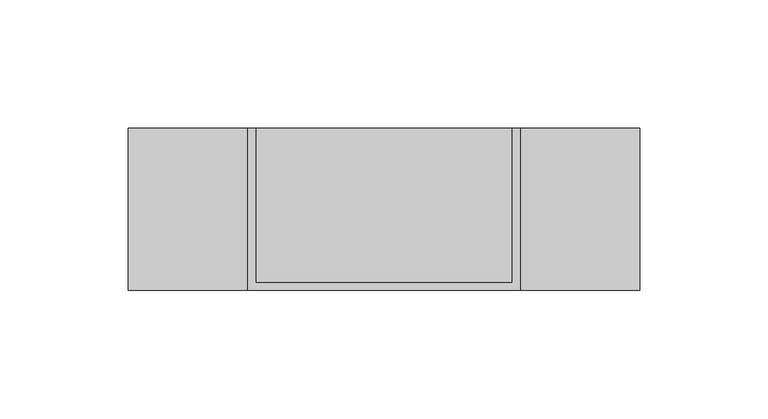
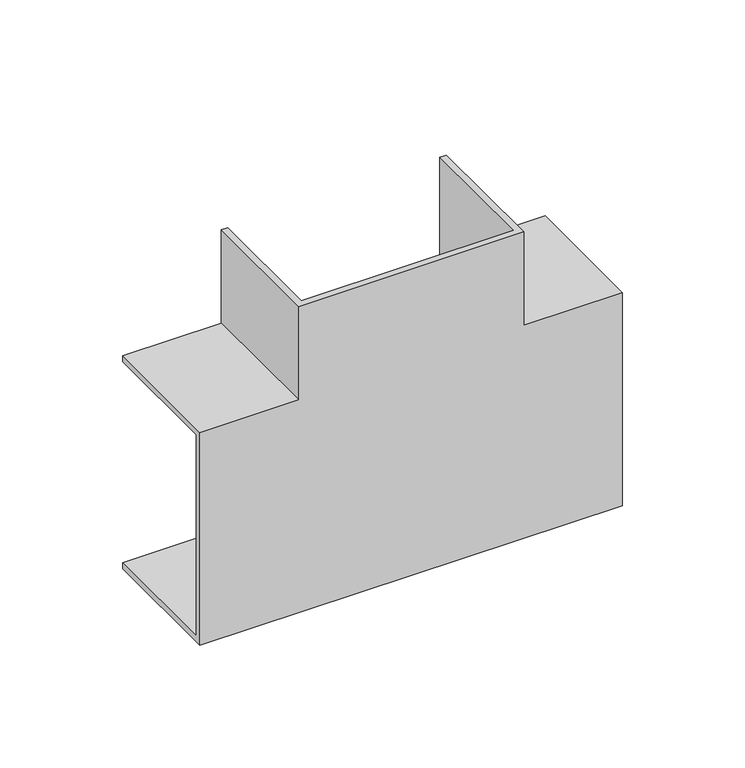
"""IFC4 building model written with IfcOpenShell, lengths in millimetres: proxy geometry, Угол_Т-образный КМТ : Угол Т-образный КМТ 100х60."""

from ifc_helpers import new_model, si_unit, origin, place, context, project, spatial, faceted_brep, source, transform, mapped, element, save


def generic_models_825cb300(model_context):
    return source(origin(), model_context, "Body", "Brep", [
        faceted_brep([(-53.0, -63.0, 53.0), (-99.5, -63.0, 53.0), (-99.5, -63.0, -53.0), (99.5, -63.0, -53.0), (99.5, -63.0, 53.0), (53.0, -63.0, 53.0), (53.0, -63.0, 99.5), (-53.0, -63.0, 99.5), (-53.0, 0.0, 53.0), (-53.0, 0.0, 99.5), (-50.0, 0.0, 99.5), (-50.0, 0.0, 50.0), (-99.5, 0.0, 50.0), (-99.5, 0.0, 53.0), (53.0, 0.0, 99.5), (53.0, 0.0, 53.0), (99.5, 0.0, 53.0), (99.5, 0.0, 50.0), (50.0, 0.0, 50.0), (50.0, 0.0, 99.5), (99.5, 0.0, -53.0), (-99.5, 0.0, -53.0), (-99.5, 0.0, -50.0), (-50.0, 0.0, -50.0), (50.0, 0.0, -50.0), (99.5, 0.0, -50.0), (-99.5, -60.0, 50.0), (-99.5, -60.0, -50.0), (99.5, -60.0, -50.0), (99.5, -60.0, 50.0), (50.0, -60.0, 99.5), (-50.0, -60.0, 99.5), (-50.0, -60.0, 50.0), (50.0, -60.0, 50.0)], [[[0, 1, 2, 3, 4, 5, 6, 7]], [[8, 9, 10, 11, 12, 13]], [[14, 15, 16, 17, 18, 19]], [[20, 21, 22, 23, 24, 25]], [[1, 0, 8, 13]], [[2, 1, 13, 12, 26, 27, 22, 21]], [[3, 2, 21, 20]], [[4, 3, 20, 25, 28, 29, 17, 16]], [[5, 4, 16, 15]], [[6, 5, 15, 14]], [[7, 6, 14, 19, 30, 31, 10, 9]], [[0, 7, 9, 8]], [[27, 26, 32, 31, 30, 33, 29, 28]], [[22, 27, 28, 25, 24, 23]], [[26, 12, 11, 32]], [[17, 29, 33, 18]], [[33, 30, 19, 18]], [[31, 32, 11, 10]]]),
    ])


if __name__ == "__main__":
    model = new_model("IFC4")
    model_context = context("Model", 3, world=origin())
    ifc_project = project(units=[si_unit("LENGTHUNIT", "METRE", prefix="MILLI")], contexts=[model_context])
    site = spatial("IfcSite", under=ifc_project)
    building = spatial("IfcBuilding", under=site)
    placement = place(None, origin())
    generic_models_shape = generic_models_825cb300(model_context)
    element("IfcBuildingElementProxy", 1, Name="Угол_Т-образный КМТ : Угол Т-образный КМТ 100х60", ObjectType="Угол_Т-образный КМТ : Угол Т-образный КМТ 100х60", at=placement, inside=building, context=model_context, shape_type="MappedRepresentation", body=[
        mapped(generic_models_shape, transform((0.0, 0.0, 0.0), x_axis=(1.0, 0.0, 0.0), y_axis=(0.0, 1.0, 0.0), z_axis=(0.0, 0.0, 1.0))),
    ])
    save(model, "model.ifc")
